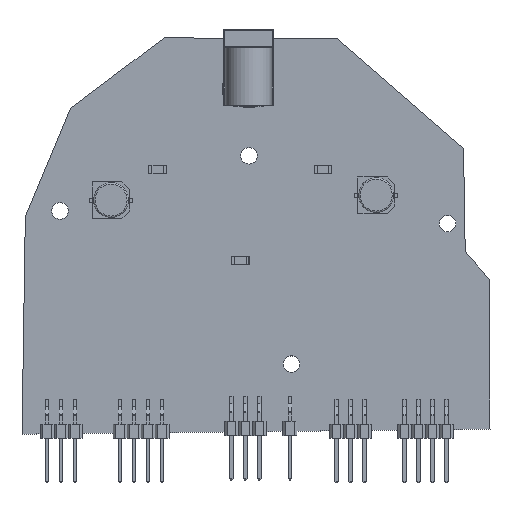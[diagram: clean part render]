
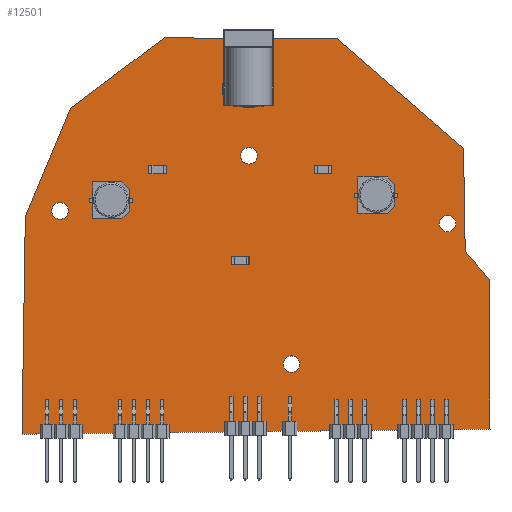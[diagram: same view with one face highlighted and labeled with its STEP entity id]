
A CAD part, top view. The second image highlights one B-rep face of the part: STEP entity #12501.
In plain terms, the highlighted planar face has unit normal (0, 0, 1).
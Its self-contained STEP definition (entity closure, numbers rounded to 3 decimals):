
#12283 = VERTEX_POINT('',#12284);
#12284 = CARTESIAN_POINT('',(98.4,-57.4,1.51));
#12290 = EDGE_CURVE('',#12283,#12291,#12293,.T.);
#12291 = VERTEX_POINT('',#12292);
#12292 = CARTESIAN_POINT('',(121.3,-77.3,1.51));
#12293 = LINE('',#12294,#12295);
#12294 = CARTESIAN_POINT('',(98.4,-57.4,1.51));
#12295 = VECTOR('',#12296,1.);
#12296 = DIRECTION('',(0.755,-0.656,0.));
#12323 = VERTEX_POINT('',#12324);
#12324 = CARTESIAN_POINT('',(67.,-57.2,1.51));
#12330 = EDGE_CURVE('',#12323,#12283,#12331,.T.);
#12331 = LINE('',#12332,#12333);
#12332 = CARTESIAN_POINT('',(67.,-57.2,1.51));
#12333 = VECTOR('',#12334,1.);
#12334 = DIRECTION('',(1.,-0.006,0.));
#12352 = EDGE_CURVE('',#12291,#12353,#12355,.T.);
#12353 = VERTEX_POINT('',#12354);
#12354 = CARTESIAN_POINT('',(121.6,-96.,1.51));
#12355 = LINE('',#12356,#12357);
#12356 = CARTESIAN_POINT('',(121.3,-77.3,1.51));
#12357 = VECTOR('',#12358,1.);
#12358 = DIRECTION('',(0.016,-1.,0.));
#12501 = ADVANCED_FACE('',(#12502,#12553,#12564,#12575,#12586,#12597,
    #12608),#12619,.T.);
#12502 = FACE_BOUND('',#12503,.T.);
#12503 = EDGE_LOOP('',(#12504,#12505,#12506,#12514,#12522,#12530,#12538,
    #12546,#12552));
#12504 = ORIENTED_EDGE('',*,*,#12290,.F.);
#12505 = ORIENTED_EDGE('',*,*,#12330,.F.);
#12506 = ORIENTED_EDGE('',*,*,#12507,.F.);
#12507 = EDGE_CURVE('',#12508,#12323,#12510,.T.);
#12508 = VERTEX_POINT('',#12509);
#12509 = CARTESIAN_POINT('',(50.,-70.,1.51));
#12510 = LINE('',#12511,#12512);
#12511 = CARTESIAN_POINT('',(50.,-70.,1.51));
#12512 = VECTOR('',#12513,1.);
#12513 = DIRECTION('',(0.799,0.602,0.));
#12514 = ORIENTED_EDGE('',*,*,#12515,.F.);
#12515 = EDGE_CURVE('',#12516,#12508,#12518,.T.);
#12516 = VERTEX_POINT('',#12517);
#12517 = CARTESIAN_POINT('',(41.8,-89.7,1.51));
#12518 = LINE('',#12519,#12520);
#12519 = CARTESIAN_POINT('',(41.8,-89.7,1.51));
#12520 = VECTOR('',#12521,1.);
#12521 = DIRECTION('',(0.384,0.923,0.));
#12522 = ORIENTED_EDGE('',*,*,#12523,.F.);
#12523 = EDGE_CURVE('',#12524,#12516,#12526,.T.);
#12524 = VERTEX_POINT('',#12525);
#12525 = CARTESIAN_POINT('',(41.2,-129.1,1.51));
#12526 = LINE('',#12527,#12528);
#12527 = CARTESIAN_POINT('',(41.2,-129.1,1.51));
#12528 = VECTOR('',#12529,1.);
#12529 = DIRECTION('',(0.015,1.,0.));
#12530 = ORIENTED_EDGE('',*,*,#12531,.F.);
#12531 = EDGE_CURVE('',#12532,#12524,#12534,.T.);
#12532 = VERTEX_POINT('',#12533);
#12533 = CARTESIAN_POINT('',(126.1,-128.2,1.51));
#12534 = LINE('',#12535,#12536);
#12535 = CARTESIAN_POINT('',(126.1,-128.2,1.51));
#12536 = VECTOR('',#12537,1.);
#12537 = DIRECTION('',(-1.,-0.011,0.));
#12538 = ORIENTED_EDGE('',*,*,#12539,.F.);
#12539 = EDGE_CURVE('',#12540,#12532,#12542,.T.);
#12540 = VERTEX_POINT('',#12541);
#12541 = CARTESIAN_POINT('',(126.,-101.,1.51));
#12542 = LINE('',#12543,#12544);
#12543 = CARTESIAN_POINT('',(126.,-101.,1.51));
#12544 = VECTOR('',#12545,1.);
#12545 = DIRECTION('',(0.004,-1.,0.));
#12546 = ORIENTED_EDGE('',*,*,#12547,.F.);
#12547 = EDGE_CURVE('',#12353,#12540,#12548,.T.);
#12548 = LINE('',#12549,#12550);
#12549 = CARTESIAN_POINT('',(121.6,-96.,1.51));
#12550 = VECTOR('',#12551,1.);
#12551 = DIRECTION('',(0.661,-0.751,0.));
#12552 = ORIENTED_EDGE('',*,*,#12352,.F.);
#12553 = FACE_BOUND('',#12554,.T.);
#12554 = EDGE_LOOP('',(#12555));
#12555 = ORIENTED_EDGE('',*,*,#12556,.F.);
#12556 = EDGE_CURVE('',#12557,#12557,#12559,.T.);
#12557 = VERTEX_POINT('',#12558);
#12558 = CARTESIAN_POINT('',(91.6,-116.4,1.51));
#12559 = CIRCLE('',#12560,1.5);
#12560 = AXIS2_PLACEMENT_3D('',#12561,#12562,#12563);
#12561 = CARTESIAN_POINT('',(90.1,-116.4,1.51));
#12562 = DIRECTION('',(0.,0.,1.));
#12563 = DIRECTION('',(1.,0.,-0.));
#12564 = FACE_BOUND('',#12565,.T.);
#12565 = EDGE_LOOP('',(#12566));
#12566 = ORIENTED_EDGE('',*,*,#12567,.F.);
#12567 = EDGE_CURVE('',#12568,#12568,#12570,.T.);
#12568 = VERTEX_POINT('',#12569);
#12569 = CARTESIAN_POINT('',(119.9,-90.9,1.51));
#12570 = CIRCLE('',#12571,1.5);
#12571 = AXIS2_PLACEMENT_3D('',#12572,#12573,#12574);
#12572 = CARTESIAN_POINT('',(118.4,-90.9,1.51));
#12573 = DIRECTION('',(0.,0.,1.));
#12574 = DIRECTION('',(1.,0.,-0.));
#12575 = FACE_BOUND('',#12576,.T.);
#12576 = EDGE_LOOP('',(#12577));
#12577 = ORIENTED_EDGE('',*,*,#12578,.F.);
#12578 = EDGE_CURVE('',#12579,#12579,#12581,.T.);
#12579 = VERTEX_POINT('',#12580);
#12580 = CARTESIAN_POINT('',(49.6,-88.6,1.51));
#12581 = CIRCLE('',#12582,1.5);
#12582 = AXIS2_PLACEMENT_3D('',#12583,#12584,#12585);
#12583 = CARTESIAN_POINT('',(48.1,-88.6,1.51));
#12584 = DIRECTION('',(0.,0.,1.));
#12585 = DIRECTION('',(1.,0.,-0.));
#12586 = FACE_BOUND('',#12587,.T.);
#12587 = EDGE_LOOP('',(#12588));
#12588 = ORIENTED_EDGE('',*,*,#12589,.F.);
#12589 = EDGE_CURVE('',#12590,#12590,#12592,.T.);
#12590 = VERTEX_POINT('',#12591);
#12591 = CARTESIAN_POINT('',(83.9,-78.6,1.51));
#12592 = CIRCLE('',#12593,1.5);
#12593 = AXIS2_PLACEMENT_3D('',#12594,#12595,#12596);
#12594 = CARTESIAN_POINT('',(82.4,-78.6,1.51));
#12595 = DIRECTION('',(0.,0.,1.));
#12596 = DIRECTION('',(1.,0.,-0.));
#12597 = FACE_BOUND('',#12598,.T.);
#12598 = EDGE_LOOP('',(#12599));
#12599 = ORIENTED_EDGE('',*,*,#12600,.T.);
#12600 = EDGE_CURVE('',#12601,#12601,#12603,.T.);
#12601 = VERTEX_POINT('',#12602);
#12602 = CARTESIAN_POINT('',(82.3,-65.95,1.51));
#12603 = CIRCLE('',#12604,1.);
#12604 = AXIS2_PLACEMENT_3D('',#12605,#12606,#12607);
#12605 = CARTESIAN_POINT('',(82.3,-64.95,1.51));
#12606 = DIRECTION('',(-0.,0.,-1.));
#12607 = DIRECTION('',(-0.,-1.,0.));
#12608 = FACE_BOUND('',#12609,.T.);
#12609 = EDGE_LOOP('',(#12610));
#12610 = ORIENTED_EDGE('',*,*,#12611,.T.);
#12611 = EDGE_CURVE('',#12612,#12612,#12614,.T.);
#12612 = VERTEX_POINT('',#12613);
#12613 = CARTESIAN_POINT('',(82.3,-61.45,1.51));
#12614 = CIRCLE('',#12615,1.);
#12615 = AXIS2_PLACEMENT_3D('',#12616,#12617,#12618);
#12616 = CARTESIAN_POINT('',(82.3,-60.45,1.51));
#12617 = DIRECTION('',(-0.,0.,-1.));
#12618 = DIRECTION('',(-0.,-1.,0.));
#12619 = PLANE('',#12620);
#12620 = AXIS2_PLACEMENT_3D('',#12621,#12622,#12623);
#12621 = CARTESIAN_POINT('',(0.,0.,1.51));
#12622 = DIRECTION('',(0.,0.,1.));
#12623 = DIRECTION('',(1.,0.,-0.));
